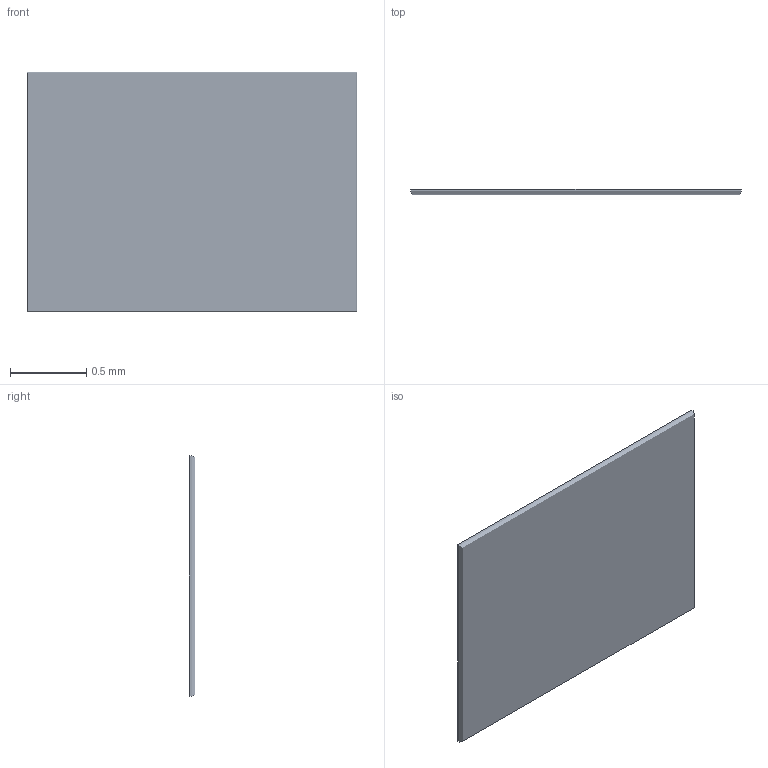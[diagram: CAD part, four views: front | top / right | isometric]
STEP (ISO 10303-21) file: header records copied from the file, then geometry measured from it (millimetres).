
FILE_DESCRIPTION(/* description */ ('STEP AP242 Edition 2','CAx-IF Rec.Pracs.---Representation and Presentation of Product Manufacturing Information (PMI)---4.0---2014-10-13','CAx-IF Rec.Pracs.---3D Tessellated Geometry---0.4---2014-09-14','2;1','CAx-IF Rec.Pracs.---User Defined Attributes---1.5---2016-08-15'),/* implementation_level */ '2;1');
FILE_NAME(/* name */ 'Assembly 1 - Part 9',/* time_stamp */ '2026-03-29T21:14:58Z',/* author */ (''),/* organization */ (''),/* preprocessor_version */ 'ST-DEVELOPER v20',/* originating_system */ 'ONSHAPE BY PTC INC, 1.212',/* authorisation */ ' ');
FILE_SCHEMA (('AP242_MANAGED_MODEL_BASED_3D_ENGINEERING_MIM_LF { 1 0 10303 442 3 1 4 }'));
Length unit declared in the file: metre
Products named in the file (1): Part 9
Bounding box: 2.17 x 0.03 x 1.57 mm (x, y, z)
Surface area: 7 mm2 (no closed solid volume)
Topology: 0 solids, 1 shells, 1 faces, 0 edges, 0 vertices
Faces by surface type: other 1
Entity records: 31 total; most frequent: DIRECTION 2, SHAPE_REPRESENTATION_RELATIONSHIP 1, TESSELLATED_SHAPE_REPRESENTATION 1, STYLED_ITEM 1, PRESENTATION_STYLE_ASSIGNMENT 1, SURFACE_STYLE_USAGE 1, SURFACE_SIDE_STYLE 1, SURFACE_STYLE_FILL_AREA 1
